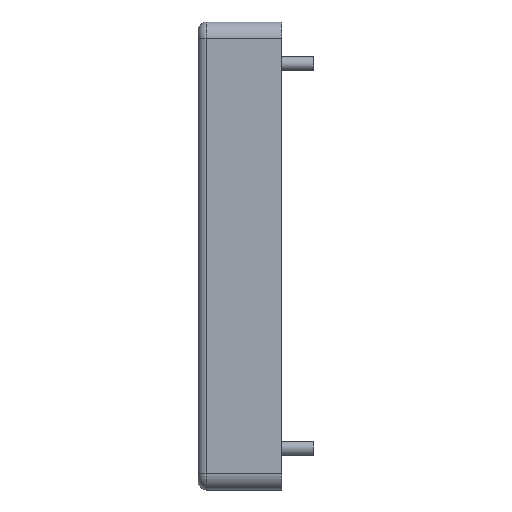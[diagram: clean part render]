
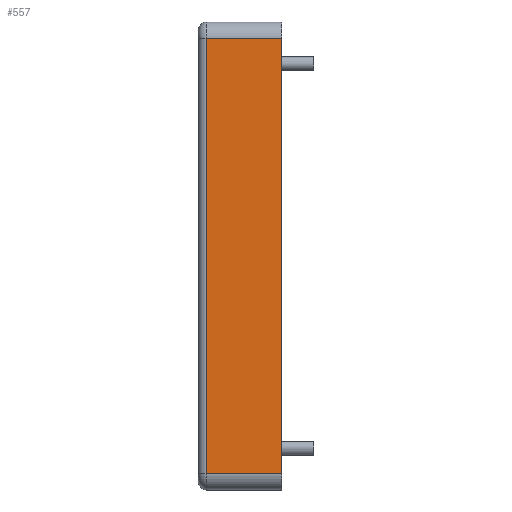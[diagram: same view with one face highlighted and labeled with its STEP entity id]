
A CAD part, left-side view. The second image highlights one B-rep face of the part: STEP entity #557.
In plain terms, the highlighted planar face has unit normal (-1, 0, 0).
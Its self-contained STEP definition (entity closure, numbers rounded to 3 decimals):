
#24 = EDGE_CURVE ( 'NONE', #406, #2011, #1816, .T. ) ;
#80 = VERTEX_POINT ( 'NONE', #1716 ) ;
#82 = CARTESIAN_POINT ( 'NONE',  ( -54.925, 0., -39.66 ) ) ;
#183 = EDGE_CURVE ( 'NONE', #1957, #406, #434, .T. ) ;
#406 = VERTEX_POINT ( 'NONE', #82 ) ;
#434 = LINE ( 'NONE', #709, #2402 ) ;
#509 = DIRECTION ( 'NONE',  ( 0., 0., -1. ) ) ;
#557 = ADVANCED_FACE ( 'NONE', ( #1840 ), #1769, .F. ) ;
#627 = EDGE_CURVE ( 'NONE', #2011, #80, #1654, .T. ) ;
#687 = EDGE_CURVE ( 'NONE', #80, #1957, #1081, .T. ) ;
#709 = CARTESIAN_POINT ( 'NONE',  ( -54.925, 15.2, -39.66 ) ) ;
#718 = DIRECTION ( 'NONE',  ( 0., -1., 0. ) ) ;
#775 = CARTESIAN_POINT ( 'NONE',  ( -54.925, 15.2, -42.66 ) ) ;
#1081 = LINE ( 'NONE', #1780, #2002 ) ;
#1130 = ORIENTED_EDGE ( 'NONE', *, *, #24, .T. ) ;
#1140 = VECTOR ( 'NONE', #1305, 1000. ) ;
#1298 = VECTOR ( 'NONE', #1649, 1000. ) ;
#1305 = DIRECTION ( 'NONE',  ( 0., 1., 0. ) ) ;
#1576 = CARTESIAN_POINT ( 'NONE',  ( -54.925, 15.2, 39.66 ) ) ;
#1616 = CARTESIAN_POINT ( 'NONE',  ( -54.925, 0., -42.66 ) ) ;
#1649 = DIRECTION ( 'NONE',  ( 0., 0., 1. ) ) ;
#1654 = LINE ( 'NONE', #1576, #1140 ) ;
#1716 = CARTESIAN_POINT ( 'NONE',  ( -54.925, 13.7, 39.66 ) ) ;
#1730 = AXIS2_PLACEMENT_3D ( 'NONE', #775, #2333, #509 ) ;
#1769 = PLANE ( 'NONE',  #1730 ) ;
#1780 = CARTESIAN_POINT ( 'NONE',  ( -54.925, 13.7, -39.66 ) ) ;
#1816 = LINE ( 'NONE', #1616, #1298 ) ;
#1840 = FACE_OUTER_BOUND ( 'NONE', #2207, .T. ) ;
#1926 = CARTESIAN_POINT ( 'NONE',  ( -54.925, 0., 39.66 ) ) ;
#1948 = ORIENTED_EDGE ( 'NONE', *, *, #627, .T. ) ;
#1957 = VERTEX_POINT ( 'NONE', #2057 ) ;
#2002 = VECTOR ( 'NONE', #2191, 1000. ) ;
#2010 = ORIENTED_EDGE ( 'NONE', *, *, #687, .T. ) ;
#2011 = VERTEX_POINT ( 'NONE', #1926 ) ;
#2057 = CARTESIAN_POINT ( 'NONE',  ( -54.925, 13.7, -39.66 ) ) ;
#2174 = ORIENTED_EDGE ( 'NONE', *, *, #183, .T. ) ;
#2191 = DIRECTION ( 'NONE',  ( 0., 0., -1. ) ) ;
#2207 = EDGE_LOOP ( 'NONE', ( #1948, #2010, #2174, #1130 ) ) ;
#2333 = DIRECTION ( 'NONE',  ( 1., 0., 0. ) ) ;
#2402 = VECTOR ( 'NONE', #718, 1000. ) ;
